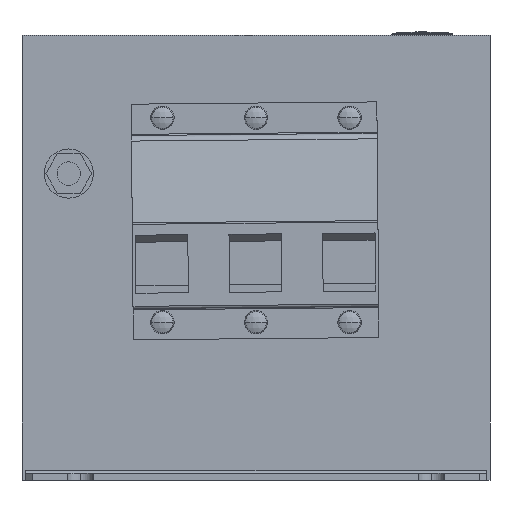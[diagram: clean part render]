
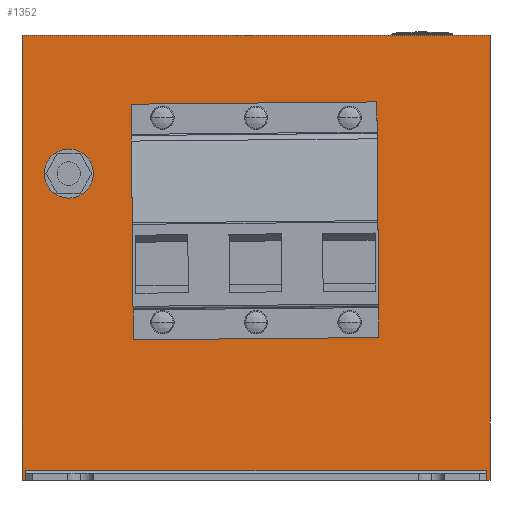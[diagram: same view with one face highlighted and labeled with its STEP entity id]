
A CAD part, front view. The second image highlights one B-rep face of the part: STEP entity #1352.
In plain terms, the highlighted planar face has unit normal (0, -1, 0).
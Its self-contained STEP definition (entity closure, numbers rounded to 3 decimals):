
#13 = VERTEX_POINT ( 'NONE', #632 ) ;
#88 = CARTESIAN_POINT ( 'NONE',  ( -100., -248.5, 0. ) ) ;
#188 = CARTESIAN_POINT ( 'NONE',  ( -100., -248.5, 190. ) ) ;
#486 = CARTESIAN_POINT ( 'NONE',  ( -52.435, -248.5, 59.953 ) ) ;
#524 = ORIENTED_EDGE ( 'NONE', *, *, #3637, .F. ) ;
#552 = CIRCLE ( 'NONE', #5874, 10.5 ) ;
#632 = CARTESIAN_POINT ( 'NONE',  ( -80., -248.5, 141.5 ) ) ;
#791 = LINE ( 'NONE', #6761, #1797 ) ;
#889 = VERTEX_POINT ( 'NONE', #5565 ) ;
#1089 = CARTESIAN_POINT ( 'NONE',  ( -80., -248.5, 131. ) ) ;
#1233 = DIRECTION ( 'NONE',  ( 0.009, 0., -1. ) ) ;
#1309 = VECTOR ( 'NONE', #1233, 1000. ) ;
#1333 = LINE ( 'NONE', #6302, #4658 ) ;
#1352 = ADVANCED_FACE ( 'NONE', ( #6679, #3050, #3857 ), #5960, .T. ) ;
#1480 = EDGE_LOOP ( 'NONE', ( #5083, #5346 ) ) ;
#1550 = EDGE_CURVE ( 'NONE', #2684, #8161, #4945, .T. ) ;
#1797 = VECTOR ( 'NONE', #6666, 1000. ) ;
#1809 = AXIS2_PLACEMENT_3D ( 'NONE', #3815, #8859, #5806 ) ;
#2050 = EDGE_CURVE ( 'NONE', #4145, #13, #8370, .T. ) ;
#2272 = ORIENTED_EDGE ( 'NONE', *, *, #8034, .F. ) ;
#2353 = CARTESIAN_POINT ( 'NONE',  ( -98.5, -248.5, 4. ) ) ;
#2502 = CARTESIAN_POINT ( 'NONE',  ( 98.5, -248.5, 4. ) ) ;
#2505 = VERTEX_POINT ( 'NONE', #4334 ) ;
#2608 = VERTEX_POINT ( 'NONE', #188 ) ;
#2684 = VERTEX_POINT ( 'NONE', #2502 ) ;
#2721 = LINE ( 'NONE', #5723, #1309 ) ;
#2793 = VERTEX_POINT ( 'NONE', #9081 ) ;
#2821 = VECTOR ( 'NONE', #6512, 1000. ) ;
#2849 = VERTEX_POINT ( 'NONE', #6314 ) ;
#3020 = CARTESIAN_POINT ( 'NONE',  ( 100., -248.5, 0. ) ) ;
#3050 = FACE_BOUND ( 'NONE', #6552, .T. ) ;
#3077 = CARTESIAN_POINT ( 'NONE',  ( -80., -248.5, 131. ) ) ;
#3158 = DIRECTION ( 'NONE',  ( 0., 0., 1. ) ) ;
#3268 = EDGE_CURVE ( 'NONE', #2684, #8999, #1333, .T. ) ;
#3281 = VECTOR ( 'NONE', #8141, 1000. ) ;
#3307 = CARTESIAN_POINT ( 'NONE',  ( -80., -248.5, 120.5 ) ) ;
#3355 = LINE ( 'NONE', #7597, #6522 ) ;
#3388 = DIRECTION ( 'NONE',  ( 1., 0., 0.009 ) ) ;
#3470 = ORIENTED_EDGE ( 'NONE', *, *, #6717, .F. ) ;
#3576 = VERTEX_POINT ( 'NONE', #4622 ) ;
#3600 = CARTESIAN_POINT ( 'NONE',  ( -100., -248.5, 190. ) ) ;
#3637 = EDGE_CURVE ( 'NONE', #2505, #2849, #5953, .T. ) ;
#3641 = VECTOR ( 'NONE', #5560, 1000. ) ;
#3658 = LINE ( 'NONE', #5271, #6058 ) ;
#3815 = CARTESIAN_POINT ( 'NONE',  ( -100., -248.5, 1.5 ) ) ;
#3832 = CARTESIAN_POINT ( 'NONE',  ( -98.5, -248.5, 1.5 ) ) ;
#3857 = FACE_OUTER_BOUND ( 'NONE', #7370, .T. ) ;
#3893 = EDGE_CURVE ( 'NONE', #2608, #7736, #9222, .T. ) ;
#3944 = ORIENTED_EDGE ( 'NONE', *, *, #5708, .F. ) ;
#3968 = CARTESIAN_POINT ( 'NONE',  ( 100., -248.5, 190. ) ) ;
#4023 = EDGE_CURVE ( 'NONE', #13, #4145, #552, .T. ) ;
#4062 = DIRECTION ( 'NONE',  ( 0., 0., -1. ) ) ;
#4145 = VERTEX_POINT ( 'NONE', #3307 ) ;
#4296 = ORIENTED_EDGE ( 'NONE', *, *, #6332, .F. ) ;
#4334 = CARTESIAN_POINT ( 'NONE',  ( -98.5, -248.5, 0. ) ) ;
#4371 = DIRECTION ( 'NONE',  ( -1., 0., 0. ) ) ;
#4422 = DIRECTION ( 'NONE',  ( 0., -1., 0. ) ) ;
#4574 = DIRECTION ( 'NONE',  ( 1., 0., 0.009 ) ) ;
#4622 = CARTESIAN_POINT ( 'NONE',  ( -52.435, -248.5, 59.953 ) ) ;
#4658 = VECTOR ( 'NONE', #5680, 1000. ) ;
#4717 = VECTOR ( 'NONE', #4371, 1000. ) ;
#4806 = VERTEX_POINT ( 'NONE', #3020 ) ;
#4864 = CARTESIAN_POINT ( 'NONE',  ( 52.561, -248.5, 60.915 ) ) ;
#4945 = LINE ( 'NONE', #8607, #3641 ) ;
#5083 = ORIENTED_EDGE ( 'NONE', *, *, #4023, .F. ) ;
#5157 = CARTESIAN_POINT ( 'NONE',  ( 98.5, -248.5, 0. ) ) ;
#5163 = VECTOR ( 'NONE', #7030, 1000. ) ;
#5180 = LINE ( 'NONE', #88, #4717 ) ;
#5271 = CARTESIAN_POINT ( 'NONE',  ( -53.358, -248.5, 160.648 ) ) ;
#5346 = ORIENTED_EDGE ( 'NONE', *, *, #2050, .F. ) ;
#5431 = VECTOR ( 'NONE', #3388, 1000. ) ;
#5444 = VERTEX_POINT ( 'NONE', #4864 ) ;
#5560 = DIRECTION ( 'NONE',  ( 0., 0., -1. ) ) ;
#5565 = CARTESIAN_POINT ( 'NONE',  ( -53.358, -248.5, 160.648 ) ) ;
#5576 = CARTESIAN_POINT ( 'NONE',  ( -100., -248.5, 0. ) ) ;
#5618 = VECTOR ( 'NONE', #3158, 1000. ) ;
#5656 = EDGE_CURVE ( 'NONE', #889, #2793, #3658, .T. ) ;
#5680 = DIRECTION ( 'NONE',  ( -1., 0., 0. ) ) ;
#5708 = EDGE_CURVE ( 'NONE', #7736, #4806, #791, .T. ) ;
#5723 = CARTESIAN_POINT ( 'NONE',  ( -53.358, -248.5, 160.648 ) ) ;
#5806 = DIRECTION ( 'NONE',  ( 1., 0., 0. ) ) ;
#5874 = AXIS2_PLACEMENT_3D ( 'NONE', #3077, #4422, #6562 ) ;
#5953 = LINE ( 'NONE', #8854, #3281 ) ;
#5960 = PLANE ( 'NONE',  #1809 ) ;
#6019 = LINE ( 'NONE', #3832, #5618 ) ;
#6058 = VECTOR ( 'NONE', #4574, 1000. ) ;
#6302 = CARTESIAN_POINT ( 'NONE',  ( 98.5, -248.5, 4. ) ) ;
#6311 = ORIENTED_EDGE ( 'NONE', *, *, #9319, .T. ) ;
#6314 = CARTESIAN_POINT ( 'NONE',  ( -100., -248.5, 0. ) ) ;
#6332 = EDGE_CURVE ( 'NONE', #889, #3576, #2721, .T. ) ;
#6512 = DIRECTION ( 'NONE',  ( 1., 0., 0. ) ) ;
#6522 = VECTOR ( 'NONE', #9064, 1000. ) ;
#6552 = EDGE_LOOP ( 'NONE', ( #6558, #7714, #3470, #4296 ) ) ;
#6558 = ORIENTED_EDGE ( 'NONE', *, *, #5656, .T. ) ;
#6562 = DIRECTION ( 'NONE',  ( 0., 0., -1. ) ) ;
#6666 = DIRECTION ( 'NONE',  ( 0., 0., -1. ) ) ;
#6679 = FACE_BOUND ( 'NONE', #1480, .T. ) ;
#6717 = EDGE_CURVE ( 'NONE', #3576, #5444, #7861, .T. ) ;
#6723 = ORIENTED_EDGE ( 'NONE', *, *, #3893, .F. ) ;
#6761 = CARTESIAN_POINT ( 'NONE',  ( 100., -248.5, 0. ) ) ;
#6840 = ORIENTED_EDGE ( 'NONE', *, *, #1550, .T. ) ;
#7017 = ORIENTED_EDGE ( 'NONE', *, *, #3268, .F. ) ;
#7030 = DIRECTION ( 'NONE',  ( 0., 0., 1. ) ) ;
#7039 = ORIENTED_EDGE ( 'NONE', *, *, #8863, .F. ) ;
#7316 = AXIS2_PLACEMENT_3D ( 'NONE', #1089, #9192, #4062 ) ;
#7337 = EDGE_CURVE ( 'NONE', #5444, #2793, #3355, .T. ) ;
#7370 = EDGE_LOOP ( 'NONE', ( #6723, #2272, #524, #6311, #7017, #6840, #7039, #3944 ) ) ;
#7597 = CARTESIAN_POINT ( 'NONE',  ( 52.561, -248.5, 60.915 ) ) ;
#7714 = ORIENTED_EDGE ( 'NONE', *, *, #7337, .F. ) ;
#7736 = VERTEX_POINT ( 'NONE', #3968 ) ;
#7861 = LINE ( 'NONE', #486, #5431 ) ;
#7865 = LINE ( 'NONE', #5576, #5163 ) ;
#8034 = EDGE_CURVE ( 'NONE', #2849, #2608, #7865, .T. ) ;
#8141 = DIRECTION ( 'NONE',  ( -1., 0., 0. ) ) ;
#8161 = VERTEX_POINT ( 'NONE', #5157 ) ;
#8370 = CIRCLE ( 'NONE', #7316, 10.5 ) ;
#8607 = CARTESIAN_POINT ( 'NONE',  ( 98.5, -248.5, 1.5 ) ) ;
#8854 = CARTESIAN_POINT ( 'NONE',  ( -100., -248.5, 0. ) ) ;
#8859 = DIRECTION ( 'NONE',  ( 0., -1., 0. ) ) ;
#8863 = EDGE_CURVE ( 'NONE', #4806, #8161, #5180, .T. ) ;
#8999 = VERTEX_POINT ( 'NONE', #2353 ) ;
#9064 = DIRECTION ( 'NONE',  ( -0.009, 0., 1. ) ) ;
#9081 = CARTESIAN_POINT ( 'NONE',  ( 51.638, -248.5, 161.611 ) ) ;
#9192 = DIRECTION ( 'NONE',  ( 0., -1., 0. ) ) ;
#9222 = LINE ( 'NONE', #3600, #2821 ) ;
#9319 = EDGE_CURVE ( 'NONE', #2505, #8999, #6019, .T. ) ;
